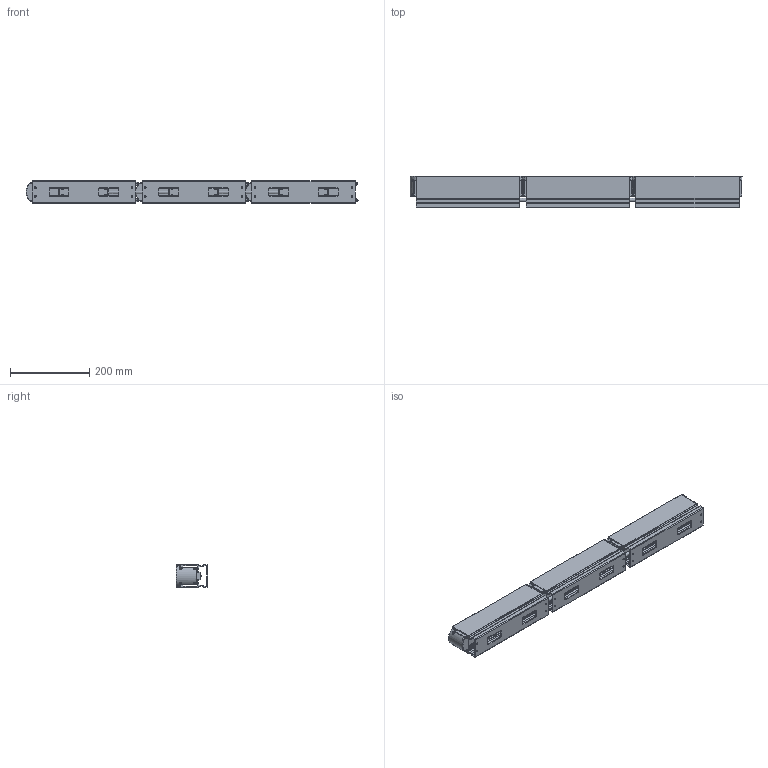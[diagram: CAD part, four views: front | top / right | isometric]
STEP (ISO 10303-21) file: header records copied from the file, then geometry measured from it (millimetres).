
FILE_DESCRIPTION (( 'STEP AP214' ), '1' );
FILE_NAME ('Linear Flex Inground.STEP', '2025-08-21T14:42:12', ( '' ), ( '' ), 'SwSTEP 2.0', 'SolidWorks 2025', '' );
FILE_SCHEMA (( 'AUTOMOTIVE_DESIGN' ));
Length unit declared in the file: millimetre
Products named in the file (5): Linear Flex Inground; Linear Flex Inground - Body; Part1^Linear Flex Inground_Top & bottm; Linear Flex Inground - Bracket; Part2^Linear Flex Inground_Without cables
Assembly tree (10 placements, depth 2):
  Linear Flex Inground
    Linear Flex Inground - Body  x3
    Linear Flex Inground - Bracket  x3
    Part1^Linear Flex Inground_Top & bottm  x3
    Part2^Linear Flex Inground_Without cables
Bounding box: 836.91 x 80 x 55.5 mm (x, y, z)
Volume: 2492875.5 mm3; surface area: 635114.6 mm2
Topology: 59 solids, 59 shells, 2946 faces, 6489 edges, 3691 vertices
Faces by surface type: plane 1204, cylinder 822, cone 432, bspline 290, torus 168, sphere 30
Full cylindrical faces by diameter (mm): 2.7 x12, 3.2 x12
Entity records: 42565 total; most frequent: CARTESIAN_POINT 21476, DIRECTION 4304, ORIENTED_EDGE 4246, EDGE_CURVE 2123, AXIS2_PLACEMENT_3D 1682, VERTEX_POINT 1229, EDGE_LOOP 1064, FACE_OUTER_BOUND 996
